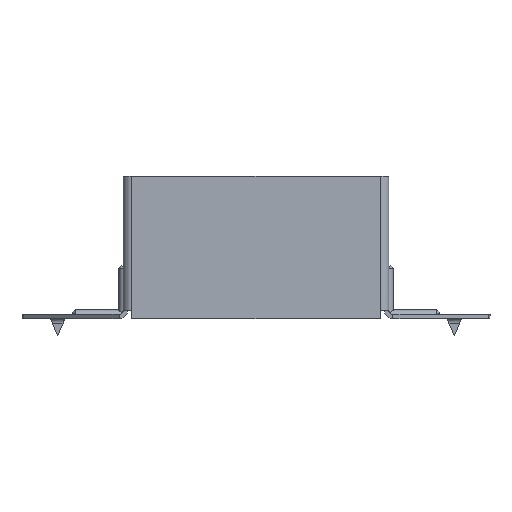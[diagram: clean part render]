
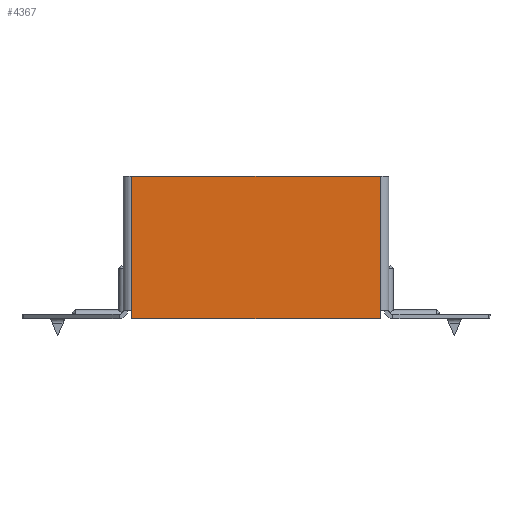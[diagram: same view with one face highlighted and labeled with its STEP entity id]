
A CAD part, front view. The second image highlights one B-rep face of the part: STEP entity #4367.
In plain terms, the highlighted planar face has unit normal (0, -1, 0).
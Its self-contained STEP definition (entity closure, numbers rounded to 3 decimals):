
#89 = ORIENTED_EDGE ( 'NONE', *, *, #13179, .F. ) ;
#193 = VERTEX_POINT ( 'NONE', #9292 ) ;
#326 = DIRECTION ( 'NONE',  ( 0., 0., 1. ) ) ;
#381 = ORIENTED_EDGE ( 'NONE', *, *, #9726, .T. ) ;
#1172 = VERTEX_POINT ( 'NONE', #2969 ) ;
#1249 = DIRECTION ( 'NONE',  ( 0., 1., 0. ) ) ;
#1297 = LINE ( 'NONE', #7110, #2074 ) ;
#1382 = VERTEX_POINT ( 'NONE', #7276 ) ;
#1545 = CARTESIAN_POINT ( 'NONE',  ( 43.5, 0., -20. ) ) ;
#2074 = VECTOR ( 'NONE', #10623, 1000. ) ;
#2221 = VERTEX_POINT ( 'NONE', #4927 ) ;
#2382 = CARTESIAN_POINT ( 'NONE',  ( -43.5, 0., 0. ) ) ;
#2737 = ORIENTED_EDGE ( 'NONE', *, *, #10209, .T. ) ;
#2787 = DIRECTION ( 'NONE',  ( -1., 0., 0. ) ) ;
#2969 = CARTESIAN_POINT ( 'NONE',  ( 43.5, 0., -70. ) ) ;
#3066 = FACE_OUTER_BOUND ( 'NONE', #5850, .T. ) ;
#4367 = ADVANCED_FACE ( 'NONE', ( #3066 ), #13387, .F. ) ;
#4641 = LINE ( 'NONE', #14991, #5968 ) ;
#4927 = CARTESIAN_POINT ( 'NONE',  ( 43.5, 0., -67. ) ) ;
#5591 = ORIENTED_EDGE ( 'NONE', *, *, #15691, .T. ) ;
#5698 = ORIENTED_EDGE ( 'NONE', *, *, #14410, .T. ) ;
#5850 = EDGE_LOOP ( 'NONE', ( #5591, #14790, #2737, #89, #5698, #381 ) ) ;
#5968 = VECTOR ( 'NONE', #2787, 1000. ) ;
#6610 = VERTEX_POINT ( 'NONE', #1545 ) ;
#7044 = CARTESIAN_POINT ( 'NONE',  ( -45., 0., -70. ) ) ;
#7110 = CARTESIAN_POINT ( 'NONE',  ( -43.5, 0., 0. ) ) ;
#7276 = CARTESIAN_POINT ( 'NONE',  ( -43.5, 0., -67. ) ) ;
#7974 = AXIS2_PLACEMENT_3D ( 'NONE', #14660, #1249, #14608 ) ;
#8399 = VECTOR ( 'NONE', #326, 1000. ) ;
#8792 = LINE ( 'NONE', #8867, #8399 ) ;
#8867 = CARTESIAN_POINT ( 'NONE',  ( 43.5, 0., -70. ) ) ;
#9292 = CARTESIAN_POINT ( 'NONE',  ( -43.5, 0., -70. ) ) ;
#9622 = LINE ( 'NONE', #11317, #10776 ) ;
#9660 = LINE ( 'NONE', #7044, #9861 ) ;
#9726 = EDGE_CURVE ( 'NONE', #2221, #6610, #8792, .T. ) ;
#9861 = VECTOR ( 'NONE', #11752, 1000. ) ;
#10053 = EDGE_CURVE ( 'NONE', #11987, #1382, #15819, .T. ) ;
#10209 = EDGE_CURVE ( 'NONE', #1382, #193, #1297, .T. ) ;
#10623 = DIRECTION ( 'NONE',  ( 0., 0., -1. ) ) ;
#10776 = VECTOR ( 'NONE', #12531, 1000. ) ;
#11317 = CARTESIAN_POINT ( 'NONE',  ( 43.5, 0., -70. ) ) ;
#11646 = CARTESIAN_POINT ( 'NONE',  ( -43.5, 0., -20. ) ) ;
#11752 = DIRECTION ( 'NONE',  ( -1., 0., 0. ) ) ;
#11987 = VERTEX_POINT ( 'NONE', #11646 ) ;
#12531 = DIRECTION ( 'NONE',  ( 0., 0., 1. ) ) ;
#13179 = EDGE_CURVE ( 'NONE', #1172, #193, #9660, .T. ) ;
#13387 = PLANE ( 'NONE',  #7974 ) ;
#14410 = EDGE_CURVE ( 'NONE', #1172, #2221, #9622, .T. ) ;
#14608 = DIRECTION ( 'NONE',  ( 0., 0., 1. ) ) ;
#14660 = CARTESIAN_POINT ( 'NONE',  ( 0., 0., 0. ) ) ;
#14790 = ORIENTED_EDGE ( 'NONE', *, *, #10053, .T. ) ;
#14991 = CARTESIAN_POINT ( 'NONE',  ( 0., 0., -20. ) ) ;
#15436 = VECTOR ( 'NONE', #15815, 1000. ) ;
#15691 = EDGE_CURVE ( 'NONE', #6610, #11987, #4641, .T. ) ;
#15815 = DIRECTION ( 'NONE',  ( 0., 0., -1. ) ) ;
#15819 = LINE ( 'NONE', #2382, #15436 ) ;
